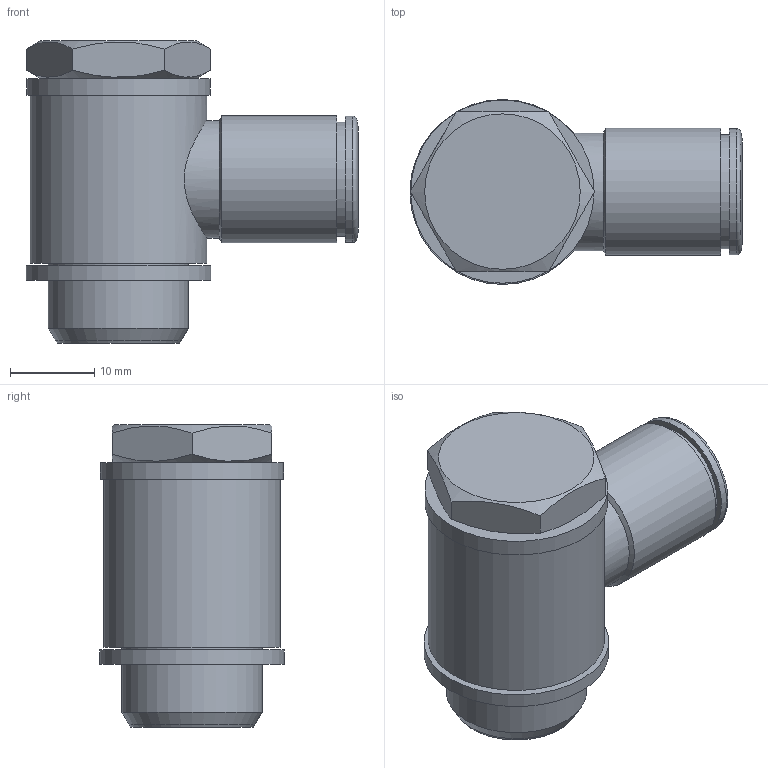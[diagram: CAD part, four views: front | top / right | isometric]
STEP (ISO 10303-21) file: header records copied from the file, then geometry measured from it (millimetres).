
FILE_DESCRIPTION(('Bauteilbeschreibung','HiCAD-Model','HiCAD-STEP-TRANSLATION','Bauteilbeschreibung'),'2;1');
FILE_NAME('B:/ABGLEICH/ZEICHNUNGEN/STEP FÜR INTERNET/STEP/S11211_IPSO_017_10_3-8.STP','2011-08-30T14:30:03+00:00',('Konstrukteur'),('Konstrukteur Firma GmbH'),' HiCAD neXt 2008, Step 3.1.1401.2J ','HiCAD neXt 2008','confidential');
FILE_SCHEMA(('AUTOMOTIVE_DESIGN { 1 2 10303 214 0 1 1 1 }'));
Length unit declared in the file: millimetre
Products named in the file (8): S11211_IPSO_017_10_3_8; DICHTRING 3_8; A4404A_HOHLSCHRAUBE_3_8_SW19; A4404A0HOHLSCHRAUBE03080SW19; G 3_8; A00044; DR10_N; R201211_N
Assembly tree (7 placements, depth 3):
  S11211_IPSO_017_10_3_8
    DICHTRING 3_8
    A4404A_HOHLSCHRAUBE_3_8_SW19
    A4404A0HOHLSCHRAUBE03080SW19
      G 3_8
    A00044
    DR10_N
    R201211_N
Bounding box: 39.5 x 22 x 36 mm (x, y, z)
Volume: 9239.3 mm3; surface area: 10552.5 mm2
Topology: 6 solids, 6 shells, 89 faces, 190 edges, 121 vertices
Faces by surface type: plane 34, cylinder 33, cone 21, torus 1
Full cylindrical faces by diameter (mm): 6 x2, 9 x1, 10 x1, 10.2 x2, 12.3 x1, 13 x1, 13.6 x1, 13.7 x1, 14 x1, 14.5 x1, 14.95 x2, 15 x1, 15.1 x1, 16.5 x2, 16.662 x1, 16.7 x1, 16.75 x2, 17.1 x1, 17.2 x1, 21 x1, 21.8 x1, 22 x1
Entity records: 6737 total; most frequent: CARTESIAN_POINT 4298, DIRECTION 392, ORIENTED_EDGE 240, AXIS2_PLACEMENT_3D 187, EDGE_LOOP 164, COLOUR_RGB 120, EDGE_CURVE 120, PRESENTATION_STYLE_ASSIGNMENT 120
